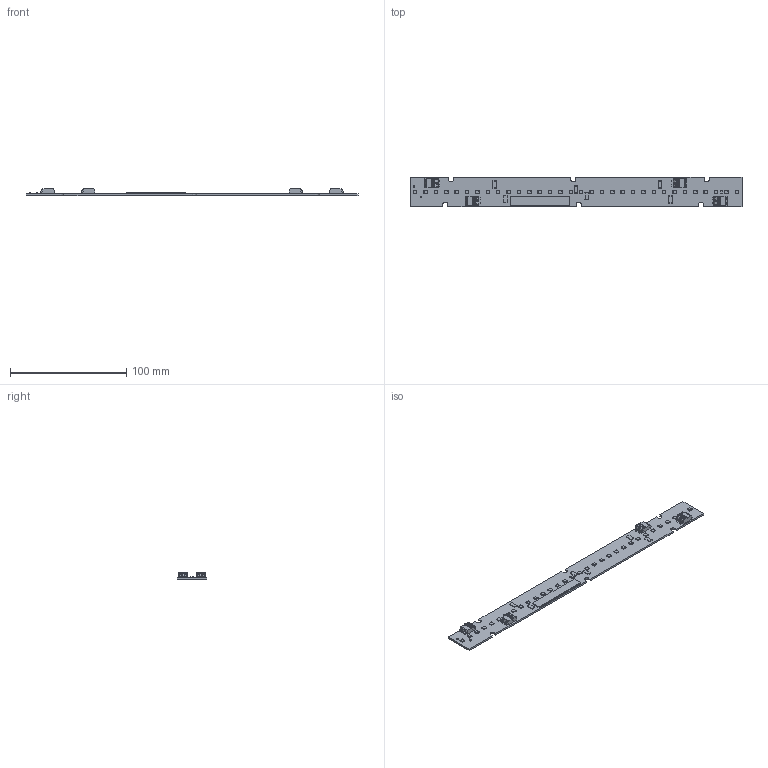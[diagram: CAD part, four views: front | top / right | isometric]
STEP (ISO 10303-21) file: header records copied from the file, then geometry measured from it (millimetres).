
FILE_DESCRIPTION((''),'2;1');
FILE_NAME('SC32DG113_06072021_10-32-12_ASM','2021-06-07T',('SYSTEM'),(''),'PRO/ENGINEER BY PARAMETRIC TECHNOLOGY CORPORATION, 2009360','PRO/ENGINEER BY PARAMETRIC TECHNOLOGY CORPORATION, 2009360','');
FILE_SCHEMA(('AUTOMOTIVE_DESIGN_CC2 { 1 2 10303 214 -1 1 5 2 }'));
Products named in the file (8): SC32DG113_06072021_10-32-12; 3030_S_LES; RESC1608X84N; RESC6431X63N; TC_R1MM; LABEL_BRACKET; WAGO_2PIN; SC32DG113_06072021_10-32-12_ASM
Assembly tree (47 placements, depth 2):
  SC32DG113_06072021_10-32-12_ASM
    SC32DG113_06072021_10-32-12
    3030_S_LES  x32
    RESC1608X84N  x2
    RESC6431X63N  x6
    TC_R1MM
    LABEL_BRACKET
    WAGO_2PIN  x4
Bounding box: 285.75 x 25.4 x 6.34 mm (x, y, z)
Volume: 13215.2 mm3; surface area: 19553.7 mm2
Topology: 47 solids, 47 shells, 1520 faces, 4974 edges, 3924 vertices
Faces by surface type: plane 1288, cylinder 216, sphere 16
Entity records: 14185 total; most frequent: CARTESIAN_POINT 2255, ORIENTED_EDGE 1958, DIRECTION 1860, EDGE_CURVE 979, VECTOR 820, LINE 820, VERTEX_POINT 672, AXIS2_PLACEMENT_3D 520
